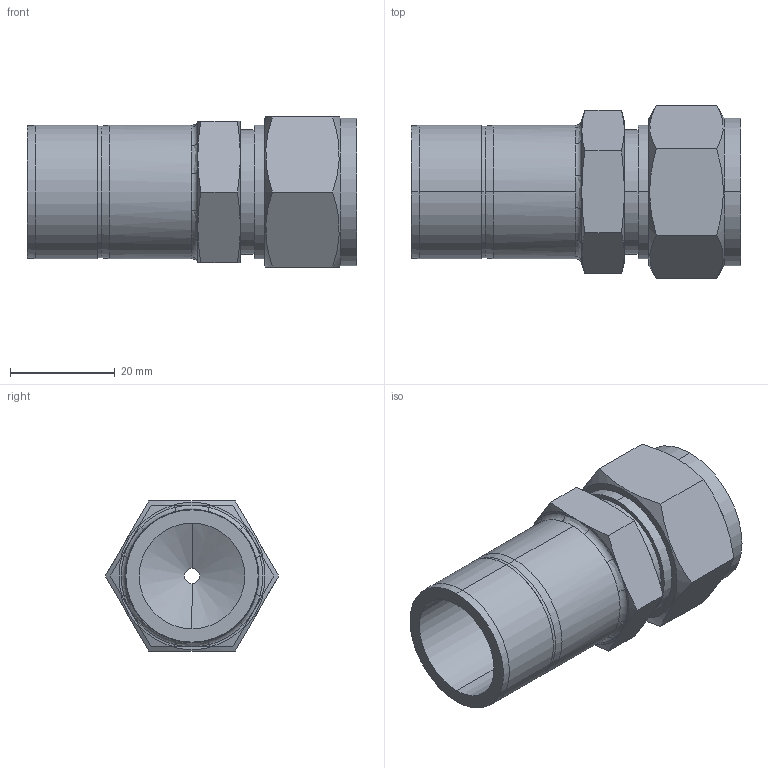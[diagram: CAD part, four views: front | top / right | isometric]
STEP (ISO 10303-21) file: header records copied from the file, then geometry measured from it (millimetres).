
FILE_DESCRIPTION (( 'STEP AP203' ), '1' );
FILE_NAME ('DRE12-16 SS.STEP', '2009-09-08T08:38:53', ( ' ' ), ( '' ), 'SwSTEP 2.0', 'SolidWorks 2008', '' );
FILE_SCHEMA (( 'CONFIG_CONTROL_DESIGN' ));
Length unit declared in the file: millimetre
Products named in the file (1): DRE12-16 SS
Bounding box: 62.8 x 33 x 28.58 mm (x, y, z)
Volume: 18128.2 mm3; surface area: 10670.5 mm2
Topology: 1 solids, 1 shells, 79 faces, 178 edges, 106 vertices
Faces by surface type: plane 25, cone 24, cylinder 18, bspline 6, torus 6
Entity records: 2667 total; most frequent: CARTESIAN_POINT 886, ORIENTED_EDGE 356, DIRECTION 354, EDGE_CURVE 178, AXIS2_PLACEMENT_3D 150, VERTEX_POINT 106, EDGE_LOOP 86, ADVANCED_FACE 79
